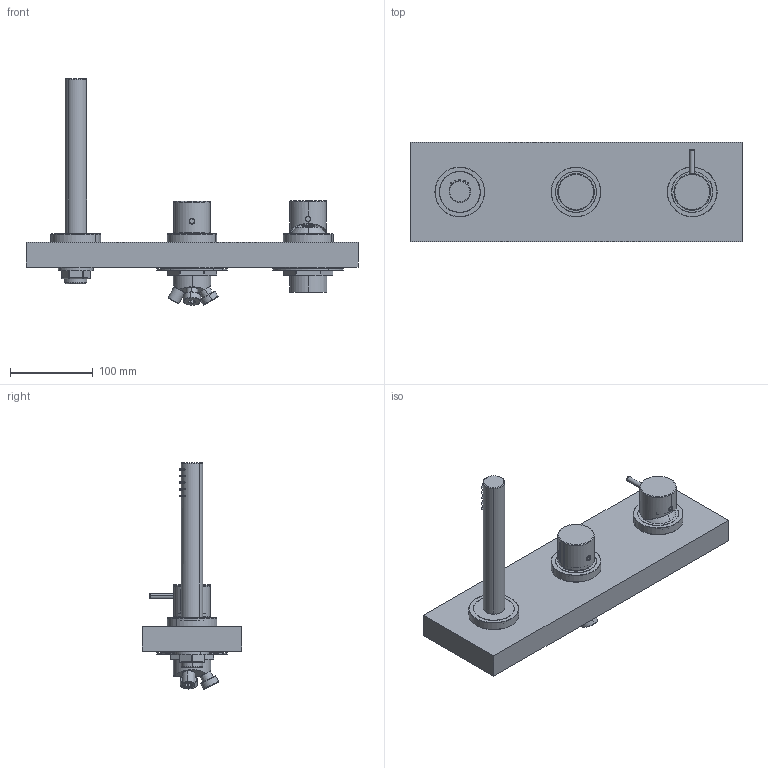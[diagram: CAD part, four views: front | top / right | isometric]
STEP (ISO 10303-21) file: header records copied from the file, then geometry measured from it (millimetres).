
FILE_DESCRIPTION (( 'STEP AP203' ), '1' );
FILE_NAME ('B3T1.STEP', '2025-06-06T15:11:46', ( '' ), ( '' ), 'SwSTEP 2.0', 'SolidWorks 2024', '' );
FILE_SCHEMA (( 'CONFIG_CONTROL_DESIGN' ));
Length unit declared in the file: millimetre
Products named in the file (26): DOCCRILE; EU0272_0; BORDO VASCA 3 FORI V; C24.0705.00.0; RONDIX  8549; EU0118_00; B3T1; EU0120_00; EU0197_0; OR4569262NBR; CARTCUC002; EU0216_0; GAL000201; EU0235_0_Default<A macchina>; EU0657_0_Default<A macchina>; RONDG 57502; EU0341_0; DADORON000; EU0121_00; EU0162_0; EU0238_0; GRANO M5x6; C47.00.0023.01; EU0322_0; CARTBAG004; C24.0121.00.0
Assembly tree (40 placements, depth 3):
  B3T1
    BORDO VASCA 3 FORI V
    EU0118_00
      OR4569262NBR  x2
      C24.0121.00.0
      EU0235_0_Default<A macchina>
      CARTBAG004
      GAL000201
      EU0322_0
      EU0341_0
      GRANO M5x6
      EU0162_0  x2
      EU0216_0
      C47.00.0023.01
    EU0120_00
      EU0657_0_Default<A macchina>
      EU0272_0
      C24.0121.00.0
      GAL000201
      CARTCUC002
      C24.0705.00.0
      OR4569262NBR  x2
      C47.00.0023.01
      GRANO M5x6
      EU0322_0
    EU0121_00
      EU0197_0
      C24.0121.00.0
      OR4569262NBR  x2
    DOCCRILE
    RONDIX  8549  x2
    RONDG 57502  x2
    EU0238_0  x2
    DADORON000
Bounding box: 400 x 120 x 272.83 mm (x, y, z)
Volume: 1751984.5 mm3; surface area: 329207.6 mm2
Topology: 43 solids, 43 shells, 1234 faces, 2739 edges, 1685 vertices
Faces by surface type: cylinder 430, plane 393, cone 277, torus 68, bspline 60, sphere 6
Entity records: 31864 total; most frequent: CARTESIAN_POINT 6703, DIRECTION 4957, ORIENTED_EDGE 4288, EDGE_CURVE 2144, AXIS2_PLACEMENT_3D 2006, VERTEX_POINT 1333, EDGE_LOOP 1119, CIRCLE 1003
